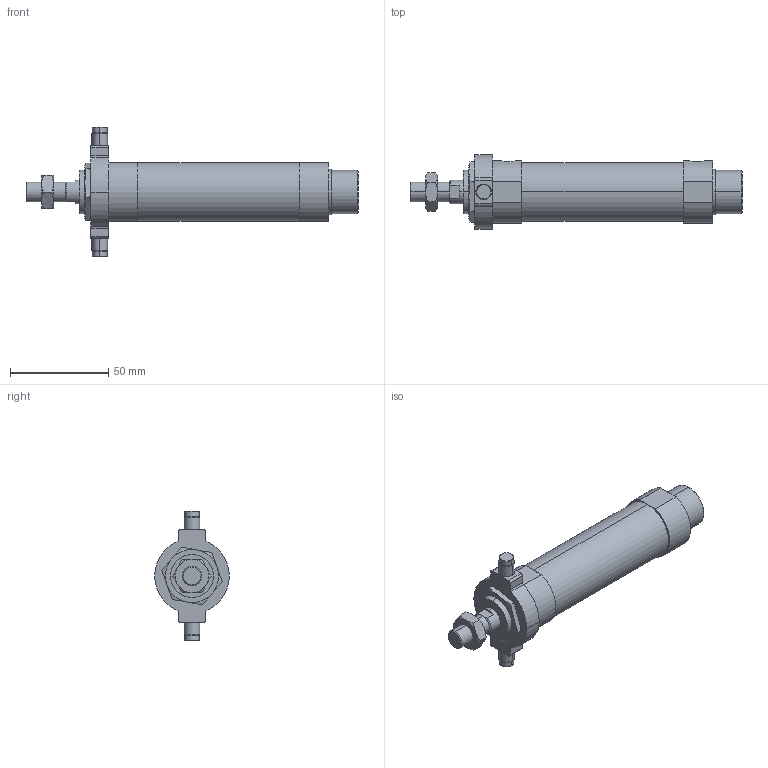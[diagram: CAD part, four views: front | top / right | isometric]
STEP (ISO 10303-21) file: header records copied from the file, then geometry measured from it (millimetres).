
FILE_DESCRIPTION (( 'STEP AP203' ), '1' );
FILE_NAME ('J#2-25-50-T.STEP', '2016-03-08T07:12:18', ( '' ), ( '' ), 'SwSTEP 2.0', 'SolidWorks 2014', '' );
FILE_SCHEMA (( 'CONFIG_CONTROL_DESIGN' ));
Length unit declared in the file: millimetre
Products named in the file (5): J#2-25-50; J#2-25-50-T; J#2-25-T
Assembly tree (4 placements, depth 2):
  J#2-25-50-T
    J#2-25-50
    (unnamed)
    J#2-25-T
    (unnamed)
Bounding box: 169 x 38 x 66 mm (x, y, z)
Volume: 103398.1 mm3; surface area: 22661.9 mm2
Topology: 4 solids, 4 shells, 136 faces, 307 edges, 184 vertices
Faces by surface type: cylinder 47, plane 47, torus 24, cone 18
Entity records: 4590 total; most frequent: CARTESIAN_POINT 1054, DIRECTION 661, ORIENTED_EDGE 606, EDGE_CURVE 303, AXIS2_PLACEMENT_3D 271, VERTEX_POINT 184, EDGE_LOOP 151, FACE_OUTER_BOUND 136
